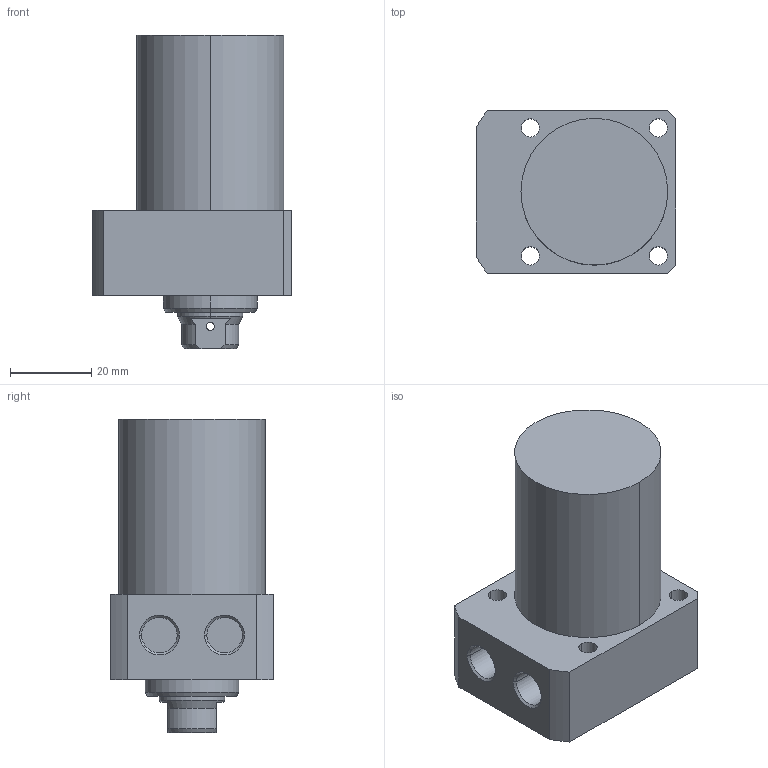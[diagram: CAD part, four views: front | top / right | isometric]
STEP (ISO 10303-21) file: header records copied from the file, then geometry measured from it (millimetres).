
FILE_DESCRIPTION((' '),'2;1');
FILE_NAME( 'TLLR-036CB-035.STEP.stp', '2025-10-24T16:35:45', (' '), ('--- Datakit www.datakit.com---'), ' Datakit CrossCadWare V2024.1 Dec 21 2023', 'Mastercam 2025', ' ');
FILE_SCHEMA(('AUTOMOTIVE_DESIGN { 1 0 10303 214 1 1 1 1 }'));
Length unit declared in the file: millimetre
Products named in the file (1): TLLR-036CB-035
Bounding box: 49 x 40 x 77 mm (x, y, z)
Volume: 84450 mm3; surface area: 14975.6 mm2
Topology: 1 solids, 1 shells, 65 faces, 192 edges, 133 vertices
Faces by surface type: cylinder 32, plane 19, cone 14
Entity records: 2878 total; most frequent: CARTESIAN_POINT 1013, DIRECTION 410, ORIENTED_EDGE 380, EDGE_CURVE 190, AXIS2_PLACEMENT_3D 170, VERTEX_POINT 133, CIRCLE 104, EDGE_LOOP 83
